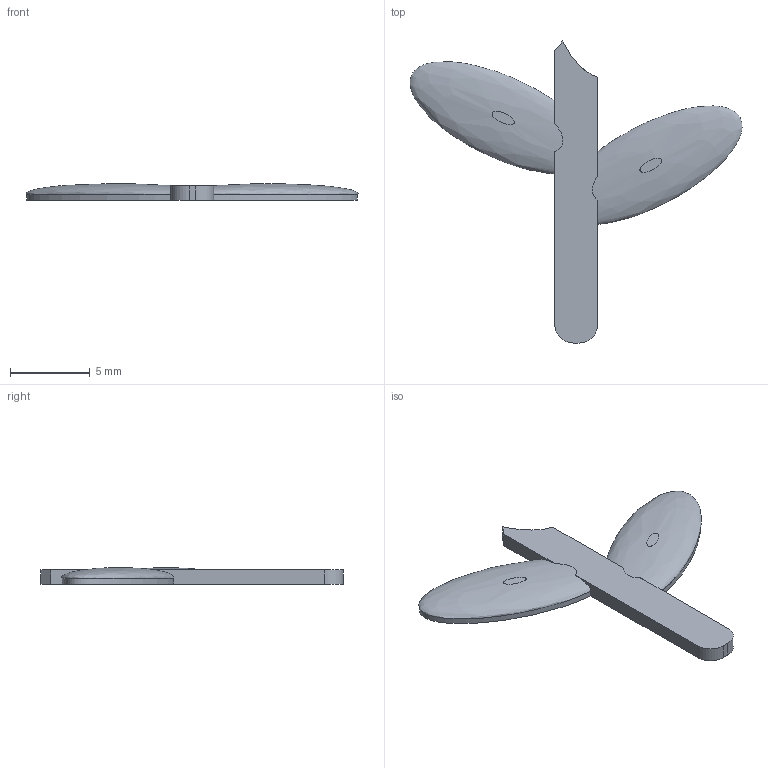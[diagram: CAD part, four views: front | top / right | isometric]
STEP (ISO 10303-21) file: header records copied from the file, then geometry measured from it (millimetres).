
FILE_DESCRIPTION(('Open CASCADE Model'),'2;1');
FILE_NAME('Open CASCADE Shape Model','2026-11-21T23:17:50',('Author'),( 'Open CASCADE'),'Open CASCADE STEP processor 7.9','Open CASCADE 7.9' ,'Unknown');
FILE_SCHEMA(('AUTOMOTIVE_DESIGN { 1 0 10303 214 1 1 1 1 }'));
Length unit declared in the file: millimetre
Products named in the file (1): Open CASCADE STEP translator 7.9 12
Bounding box: 20.84 x 18.96 x 1.03 mm (x, y, z)
Volume: 115 mm3; surface area: 317.8 mm2
Topology: 1 solids, 1 shells, 17 faces, 47 edges, 32 vertices
Faces by surface type: plane 9, extrusion 4, bspline 2, cylinder 2
Entity records: 2623 total; most frequent: CARTESIAN_POINT 1772, DIRECTION 125, ORIENTED_EDGE 94, PCURVE 94, DEFINITIONAL_REPRESENTATION 94, VECTOR 67, LINE 63, B_SPLINE_CURVE_WITH_KNOTS 58
